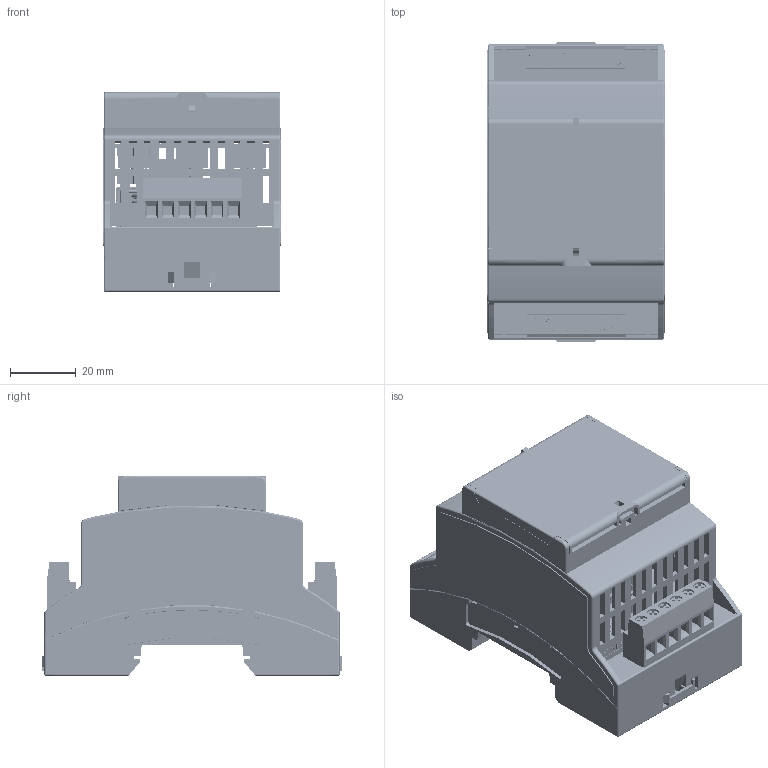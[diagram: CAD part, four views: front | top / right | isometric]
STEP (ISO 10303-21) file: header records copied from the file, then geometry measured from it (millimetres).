
FILE_DESCRIPTION(/* description */ (''),/* implementation_level */ '2;1');
FILE_NAME(/* name */ 'D:\WorkIMT\Project IMT\ОДУВАНЧИК, ОГО!\РЕКОНТ\!КД\Архив 3D\МТ.ФЛОКС-I.01.СБ.stp',/* time_stamp */ '2022-02-04T14:17:59+03:00',/* author */ ('Иван'),/* organization */ (''),/* preprocessor_version */ 'ST-DEVELOPER v17.2',/* originating_system */ 'Autodesk Inventor 2019',/* authorisation */ '');
FILE_SCHEMA (('AUTOMOTIVE_DESIGN { 1 0 10303 214 3 1 1 }'));
Products named in the file (203): МТ.ФЛОКС-I.01.СБ; MT.FLOX_I.PWR.03.01.ЭС; FLOX-I_PWR_v2_CopperTop; FLOX-I_PWR_v2_CopperBottom; FLOX-I_PWR_v2_BoardAndModels; DesignRootModel; uid__4; Submodel-37212000411_1048595769_part_372_Series; Submodel-noModelForPart_37212000411_1048595769; placementOutline; Submodel-ECA2GHG220_1499197607_part_CAP_12_splat_25_BEND; Submodel-noModelForPart_ECA2GHG220_1499197607; placementOutline_1; Submodel-DE1B3KX221KA4BN01F_3958295143_part_DE1B3KX471K; Submodel-noModelForPart_DE1B3KX221KA4BN01F_3958295143; placementOutline_2; Submodel-PBD-10_1554185748_part_PBD-10; Submodel-noModelForPart_PBD-10_1554185748; placementOutline_3; placementOutline_4; Submodel-DG129-5.0-03P-14-00A_lpar_H_rpar__part_DG129-5.0-03P-14-00A; Submodel-C_WDIREEVX.1.1DxProjectsREKONTLOX-I_PWR_v2BLayout3DImportedP
artModelsUser Library-3 Way PCB Screw Terminal Block; User Library-3 Way PCB Screw Terminal Block 5mm.step; Submodel-MO-1W-47RJ_307751512_part_RESAD1500W80L1100D450P_C2-23_1; Submodel-noModelForPart_MO-1W-47RJ_307751512; placementOutline_7; placementOutline_8; Submodel-RLB0914-681KL_2334642412_part_INDRD500W65D870H1300P; Submodel-noModelForPart_RLB0914-681KL_2334642412; placementOutline_9; Submodel-1393243-1_3702707659_part_1393243-1; Submodel-noModelForPart_1393243-1_3702707659; placementOutline_10; Submodel-LS03-13B05R3_1864363534_part_LS03-13BxxR3; Submodel-noModelForPart_LS03-13B05R3_1864363534; placementOutline_11; placementOutline_12; Submodel-SK010M0470B3F-0811_3720144704_part_CAPPRD350W60D800H1250P; Submodel-noModelForPart_SK010M0470B3F-0811_3720144704; placementOutline_13 ...
Assembly tree (272 placements, depth 7):
  МТ.ФЛОКС-I.01.СБ
    MT.FLOX_I.PWR.03.01.ЭС
      FLOX-I_PWR_v2_CopperTop
      FLOX-I_PWR_v2_CopperBottom
      FLOX-I_PWR_v2_BoardAndModels
        DesignRootModel
          uid__4
          Submodel-37212000411_1048595769_part_372_Series
            Submodel-noModelForPart_37212000411_1048595769
              placementOutline
          Submodel-ECA2GHG220_1499197607_part_CAP_12_splat_25_BEND
            Submodel-noModelForPart_ECA2GHG220_1499197607
              placementOutline_1
          Submodel-DE1B3KX221KA4BN01F_3958295143_part_DE1B3KX471K
            Submodel-noModelForPart_DE1B3KX221KA4BN01F_3958295143
              placementOutline_2
          Submodel-PBD-10_1554185748_part_PBD-10
            Submodel-noModelForPart_PBD-10_1554185748
              placementOutline_3
              placementOutline_4
          Submodel-DG129-5.0-03P-14-00A_lpar_H_rpar__part_DG129-5.0-03P-14-00A  x4
            Submodel-C_WDIREEVX.1.1DxProjectsREKONTLOX-I_PWR_v2BLayout3DImportedP
artModelsUser Library-3 Way PCB Screw Terminal Block
              User Library-3 Way PCB Screw Terminal Block 5mm.step
          Submodel-MO-1W-47RJ_307751512_part_RESAD1500W80L1100D450P_C2-23_1
            Submodel-noModelForPart_MO-1W-47RJ_307751512
              placementOutline_7
              placementOutline_8
          Submodel-RLB0914-681KL_2334642412_part_INDRD500W65D870H1300P
            Submodel-noModelForPart_RLB0914-681KL_2334642412
              placementOutline_9
          Submodel-1393243-1_3702707659_part_1393243-1
            Submodel-noModelForPart_1393243-1_3702707659
              placementOutline_10
          Submodel-LS03-13B05R3_1864363534_part_LS03-13BxxR3
            Submodel-noModelForPart_LS03-13B05R3_1864363534
              placementOutline_11
              placementOutline_12
          Submodel-SK010M0470B3F-0811_3720144704_part_CAPPRD350W60D800H1250P
            Submodel-noModelForPart_SK010M0470B3F-0811_3720144704
              placementOutline_13
          Submodel-B72214S0301K101_2844350085_part_B72214S0301K101
            Submodel-noModelForPart_B72214S0301K101_2844350085
              placementOutline_14
    MT.FLOX_I.MCU.02.01.ЭС
      Flox-I_MCU_v2_CopperTop
      Flox-I_MCU_v2_CopperBottom
      Flox-I_MCU_v2_BoardAndModels
        DesignRootModel_1
          uid__4_1
          Submodel-C2012X5R1C226K125AC_2932949761_part_CAPC2013X140N_0805
            Submodel-noModelForPart_C2012X5R1C226K125AC_2932949761
              placementOutline_5
              placementOutline_1_1
          Submodel-GRM155R61E105KA12D_2426018746_part_CAPC1005X55N_0402  x6
            Submodel-noModelForPart_GRM155R61E105KA12D_2426018746
              placementOutline_2_1
              placementOutline_3_1
          Submodel-CC0402JRNPO9BN220_1110172620_part_CAPC1005X55N_0402
            Submodel-noModelForPart_CC0402JRNPO9BN220_1110172620
              placementOutline_4_1
Bounding box: 54.2 x 91 x 60.7 mm (x, y, z)
Volume: 84085.1 mm3; surface area: 124107.2 mm2
Topology: 546 solids, 546 shells, 9627 faces, 25267 edges, 16769 vertices
Faces by surface type: plane 7656, cylinder 1899, torus 34, cone 24, sphere 10, bspline 4
Full cylindrical faces by diameter (mm): 0.8 x6, 0.9 x12, 1 x83, 1.05 x30, 1.2 x12, 1.3 x25, 1.4 x8, 1.5 x32, 1.6 x45, 1.65 x10, 2 x10, 2.108 x1, 2.15 x8, 2.2 x2, 2.25 x3, 2.4 x14, 2.5 x10, 2.6 x3, 3 x12, 3.532 x12, 3.8 x12, 4.2 x3, 4.3 x3, 5 x6, 5.216 x3, 6.7 x3, 8.3 x1, 8.49 x1, 8.902 x1
Entity records: 273776 total; most frequent: CARTESIAN_POINT 48150, ORIENTED_EDGE 45292, DIRECTION 44379, EDGE_CURVE 22646, LINE 18697, VECTOR 18697, VERTEX_POINT 15026, AXIS2_PLACEMENT_3D 12841
